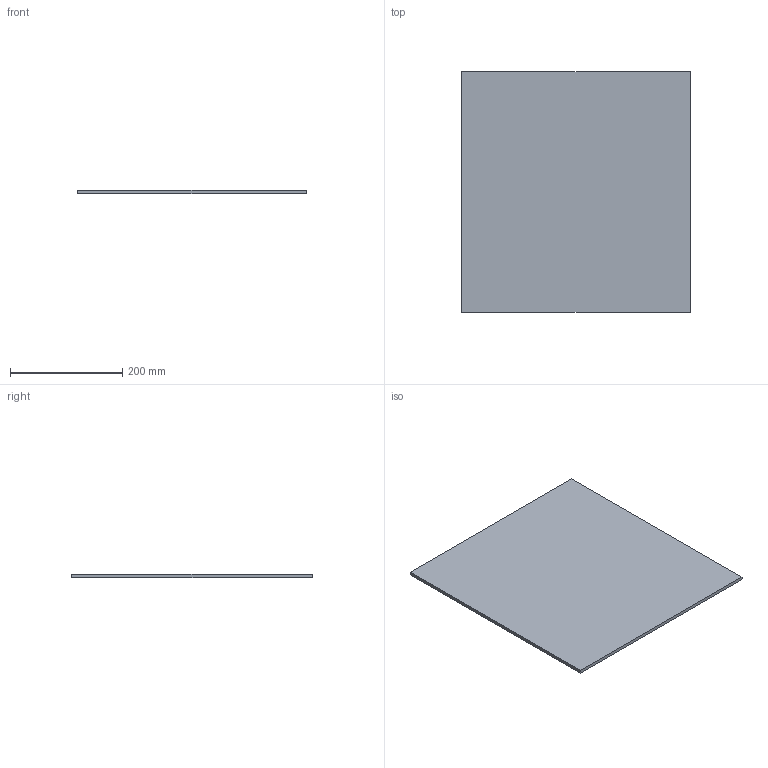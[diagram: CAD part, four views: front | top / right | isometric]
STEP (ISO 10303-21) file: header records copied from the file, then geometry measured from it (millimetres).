
FILE_DESCRIPTION (( 'STEP AP214' ), '1' );
FILE_NAME ('Lochblech_NL450_KAB500_16.step', '2010-10-11T13:38:26', ( 'grass' ), ( '' ), 'SwSTEP 2.0', 'SolidWorks 2010', '' );
FILE_SCHEMA (( 'AUTOMOTIVE_DESIGN' ));
Length unit declared in the file: millimetre
Products named in the file (1): Lochblech_NL450_KAB500_16
Bounding box: 408 x 429 x 6 mm (x, y, z)
Volume: 1050192 mm3; surface area: 360108 mm2
Topology: 1 solids, 1 shells, 6 faces, 12 edges, 8 vertices
Faces by surface type: plane 6
Entity records: 190 total; most frequent: CARTESIAN_POINT 27, DIRECTION 26, ORIENTED_EDGE 24, VECTOR 12, LINE 12, EDGE_CURVE 12, VERTEX_POINT 8, AXIS2_PLACEMENT_3D 7
